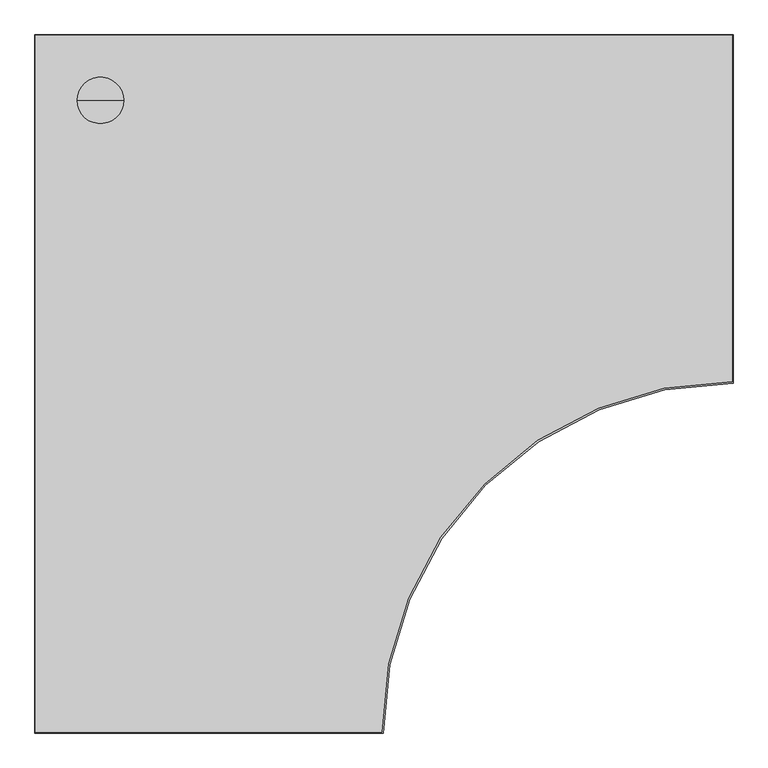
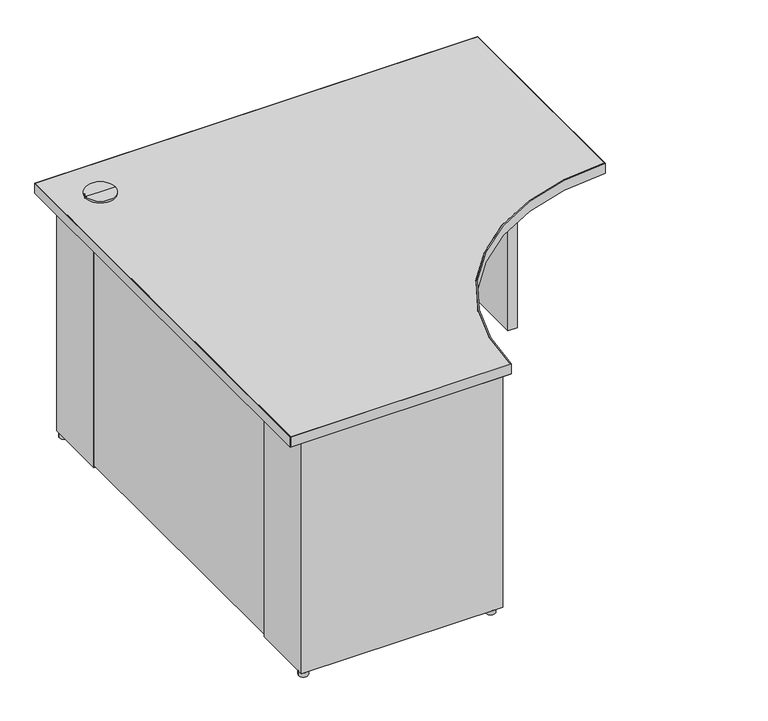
"""IFC4 building model written with IfcOpenShell, lengths in millimetres: furniture geometry, Steelcase - Kick Freestanding - Desk - Curve Corner - Full Height Modesty Panel : 24D x 48W - Left Full End Panel/Right Clear Access Support - LPL."""

import ifcopenshell
import ifcopenshell.guid

model = None  # the IFC model being written
_history = None  # IfcOwnerHistory: only IFC2X3 demands one
_inside = {}  # id of a spatial element -> (the spatial element, [elements in it])
_under = {}  # id of a project, library or spatial element -> (it, [spatial elements below it])
_declared = {}  # id of a project -> (the project, [libraries it declares])
_typed = {}  # id of a type object -> (the type object, [elements of that type])
_made_of = {}  # id of a material, layer set ... -> (it, [elements and type objects made of it])


def new_model(schema):
    """Start an empty IFC model of exactly this schema.

    Asked for "IFC4X3", IfcOpenShell would pick the latest addendum, in which some entities
    have other attributes; the version numbers below select the first issue.
    IFC2X3 requires an IfcOwnerHistory on every rooted entity: one is made here for all.
    """
    global model, _history
    if schema == "IFC4X3":
        model = ifcopenshell.file(schema_version=(4, 3, 0, 0))
    else:
        model = ifcopenshell.file(schema=schema)
    _inside.clear()
    _under.clear()
    _declared.clear()
    _typed.clear()
    _made_of.clear()
    _history = None
    if model.schema == "IFC2X3":
        org = make("IfcOrganization", Name="unknown")
        user = make(
            "IfcPersonAndOrganization",
            ThePerson=make("IfcPerson", FamilyName="unknown"),
            TheOrganization=org,
        )
        app = make(
            "IfcApplication",
            ApplicationDeveloper=org,
            Version="unknown",
            ApplicationFullName="unknown",
            ApplicationIdentifier="unknown",
        )
        _history = make(
            "IfcOwnerHistory",
            OwningUser=user,
            OwningApplication=app,
            ChangeAction="ADDED",
            CreationDate=0,
        )
    return model


def make(cls, **values):
    """One entity of the class cls with the attributes given. An attribute that is None is left unset."""
    return model.create_entity(
        cls, **{name: value for name, value in values.items() if value is not None}
    )


def rooted(cls, **values):
    """An entity with a GlobalId (a new one), such as an element, a storey or a relation."""
    return make(cls, GlobalId=ifcopenshell.guid.new(), OwnerHistory=_history, **values)


def si_unit(unit_type, name, prefix=None):
    """IfcSIUnit, for example si_unit("LENGTHUNIT", "METRE", prefix="MILLI")."""
    return make("IfcSIUnit", UnitType=unit_type, Prefix=prefix, Name=name)


def assignment(units):
    """IfcUnitAssignment: the units of a project."""
    return None if units is None else make("IfcUnitAssignment", Units=units)


def point(xyz):
    """IfcCartesianPoint."""
    return None if xyz is None else make("IfcCartesianPoint", Coordinates=xyz)


def direction(xyz):
    """IfcDirection."""
    return None if xyz is None else make("IfcDirection", DirectionRatios=xyz)


def frame(location, z_axis=None, x_axis=None):
    """IfcAxis2Placement3D, a coordinate frame: its origin and axes. An axis left out is left unset."""
    return make(
        "IfcAxis2Placement3D",
        Location=point(location),
        Axis=direction(z_axis),
        RefDirection=direction(x_axis),
    )


def frame_2d(location, x_axis=None):
    """IfcAxis2Placement2D, a coordinate frame in the plane: its origin and x axis."""
    return make(
        "IfcAxis2Placement2D", Location=point(location), RefDirection=direction(x_axis)
    )


def origin():
    """The frame at (0, 0, 0) with its axes left unset."""
    return frame((0.0, 0.0, 0.0))


def origin_with_axes():
    """The frame at (0, 0, 0) with the z axis (0, 0, 1) and the x axis (1, 0, 0) written out."""
    return frame((0.0, 0.0, 0.0), z_axis=(0.0, 0.0, 1.0), x_axis=(1.0, 0.0, 0.0))


def place(relative_to, where):
    """IfcLocalPlacement: puts the frame where relative to a parent placement (None: the world)."""
    return make(
        "IfcLocalPlacement", PlacementRelTo=relative_to, RelativePlacement=where
    )


def context(
    kind, dimensions, precision=None, world=None, true_north=None, identifier=None
):
    """IfcGeometricRepresentationContext, for example the 3D "Model" context."""
    return make(
        "IfcGeometricRepresentationContext",
        ContextIdentifier=identifier,
        ContextType=kind,
        CoordinateSpaceDimension=dimensions,
        Precision=precision,
        WorldCoordinateSystem=world,
        TrueNorth=true_north,
    )


def project(units=None, contexts=None):
    """IfcProject with its units and contexts."""
    return rooted(
        "IfcProject",
        Name="project",
        RepresentationContexts=contexts,
        UnitsInContext=assignment(units),
    )


def spatial(cls, under=None, at=None, **own):
    """A site, building, storey or space (cls), placed at a placement, below another one or the project."""
    s = rooted(cls, ObjectPlacement=at, **own)
    if under is not None:
        _under.setdefault(under.id(), (under, []))[1].append(s)
    return s


def polyline(points):
    """IfcPolyline through the points."""
    return make("IfcPolyline", Points=[point(p) for p in points])


def circle_curve(where, radius):
    """IfcCircle in the frame where."""
    return make("IfcCircle", Position=where, Radius=radius)


def trimmed(basis, trim1, trim2, sense, master):
    """IfcTrimmedCurve: the piece of a basis curve between two trims."""
    return make(
        "IfcTrimmedCurve",
        BasisCurve=basis,
        Trim1=trim1,
        Trim2=trim2,
        SenseAgreement=sense,
        MasterRepresentation=master,
    )


def segment(curve, same_sense, transition):
    """IfcCompositeCurveSegment."""
    return make(
        "IfcCompositeCurveSegment",
        Transition=transition,
        SameSense=same_sense,
        ParentCurve=curve,
    )


def composite_curve(segments, self_intersect=None):
    """IfcCompositeCurve: segments joined end to end."""
    return make("IfcCompositeCurve", Segments=segments, SelfIntersect=self_intersect)


def outline(outer, holes=None, kind="AREA"):
    """IfcArbitraryClosedProfileDef: a profile drawn as a closed curve; with holes, ...WithVoids."""
    if holes is None:
        return make("IfcArbitraryClosedProfileDef", ProfileType=kind, OuterCurve=outer)
    return make(
        "IfcArbitraryProfileDefWithVoids",
        ProfileType=kind,
        OuterCurve=outer,
        InnerCurves=holes,
    )


def extrude(swept, where, along, depth):
    """IfcExtrudedAreaSolid: the profile swept, set in the frame where, extruded along a direction by depth."""
    return make(
        "IfcExtrudedAreaSolid",
        SweptArea=swept,
        Position=where,
        ExtrudedDirection=direction(along),
        Depth=depth,
    )


def shape(context_of_items, identifier, shape_type, items):
    """IfcShapeRepresentation: the items that make up one representation, for example the "Body"."""
    return make(
        "IfcShapeRepresentation",
        ContextOfItems=context_of_items,
        RepresentationIdentifier=identifier,
        RepresentationType=shape_type,
        Items=items,
    )


def source(mapping_origin, context_of_items, identifier, shape_type, items):
    """IfcRepresentationMap: a shape defined once, which mapped items show again and again."""
    return make(
        "IfcRepresentationMap",
        MappingOrigin=mapping_origin,
        MappedRepresentation=shape(context_of_items, identifier, shape_type, items),
    )


def transform(
    local_origin,
    x_axis=None,
    y_axis=None,
    z_axis=None,
    scale=None,
    scale2=None,
    scale3=None,
    uniform=True,
):
    """IfcCartesianTransformationOperator3D, or its non-uniform kind. x_axis, y_axis, z_axis: its Axis1, 2, 3."""
    if uniform:
        return make(
            "IfcCartesianTransformationOperator3D",
            Axis1=direction(x_axis),
            Axis2=direction(y_axis),
            LocalOrigin=point(local_origin),
            Scale=scale,
            Axis3=direction(z_axis),
        )
    return make(
        "IfcCartesianTransformationOperator3DnonUniform",
        Axis1=direction(x_axis),
        Axis2=direction(y_axis),
        LocalOrigin=point(local_origin),
        Scale=scale,
        Axis3=direction(z_axis),
        Scale2=scale2,
        Scale3=scale3,
    )


def mapped(mapping_source, mapping_target):
    """IfcMappedItem: shows the shape of a source again, moved by a transform."""
    return make(
        "IfcMappedItem", MappingSource=mapping_source, MappingTarget=mapping_target
    )


def made_of(thing, what):
    """Note that an element or type object is made of a material, layer set ...; save() writes the relation."""
    if what is not None:
        _made_of.setdefault(what.id(), (what, []))[1].append(thing)
    return thing


def element(
    cls,
    number,
    at=None,
    inside=None,
    cuts=None,
    type_object=None,
    material=None,
    context=None,
    identifier="Body",
    shape_type=None,
    held_by="IfcProductDefinitionShape",
    body=None,
    shapes=None,
    **own,
):
    """One element of the class cls, such as IfcWall. Its Tag is "e" and its number.

    at: its placement. inside: the storey or other place that contains it. cuts: it is an
    opening in that element (IfcRelVoidsElement). A single representation is given by context,
    identifier, shape_type and body (its items); several are given by shapes. held_by: the class
    of the entity that holds the representations. save() writes the other relations.
    """
    e = rooted(cls, Tag="e%d" % number, ObjectPlacement=at, **own)
    if body is not None:
        shapes = [shape(context, identifier, shape_type, body)]
    if shapes is not None:
        e.Representation = make(held_by, Representations=shapes)
    if inside is not None:
        _inside.setdefault(inside.id(), (inside, []))[1].append(e)
    if cuts is not None:
        rooted(
            "IfcRelVoidsElement", RelatingBuildingElement=cuts, RelatedOpeningElement=e
        )
    if type_object is not None:
        _typed.setdefault(type_object.id(), (type_object, []))[1].append(e)
    return made_of(e, material)


def aggregate(whole, parts):
    """IfcRelAggregates: a whole, such as a stair, and the parts it consists of."""
    return rooted("IfcRelAggregates", RelatingObject=whole, RelatedObjects=parts)


def save(model, path):
    """Write the relations noted so far, then the file.

    IfcRelAggregates (storeys below a building ...), IfcRelContainedInSpatialStructure (elements
    in a storey), IfcRelDefinesByType, IfcRelAssociatesMaterial and IfcRelDeclares: one each for
    every whole, place, type object, material and project.
    """
    for whole, parts in _under.values():
        aggregate(whole, parts)
    for where, things in _inside.values():
        rooted(
            "IfcRelContainedInSpatialStructure",
            RelatedElements=things,
            RelatingStructure=where,
        )
    for kind, things in _typed.values():
        rooted("IfcRelDefinesByType", RelatedObjects=things, RelatingType=kind)
    for what, things in _made_of.values():
        rooted("IfcRelAssociatesMaterial", RelatedObjects=things, RelatingMaterial=what)
    for by, libraries in _declared.values():
        rooted("IfcRelDeclares", RelatingContext=by, RelatedDefinitions=libraries)
    model.write(path)


def plane_surface(at):
    """IfcPlane: the flat surface through the origin of the frame at, square to its z axis."""
    return make("IfcPlane", Position=at)


def cylinder_surface(at, radius):
    """IfcCylindricalSurface: all points at the distance radius from the z axis of the frame at."""
    return make("IfcCylindricalSurface", Position=at, Radius=radius)


def advanced_brep(points, edges, surfaces, faces):
    """IfcAdvancedBrep: a solid bounded by faces that lie on surfaces and meet in shared edges.

    An edge is (start, end): straight between two places in points (the first is 0);
    or (start, end, curve); or (start, end, curve, False) where it runs against its curve.
    A face is (place in surfaces, loops), or (place, loops, False) where it looks against
    its surface's normal. A loop lists edges by number (the first is 1), with a minus sign
    where the edge is run from its end to its start. The first loop is the outer one.
    """
    corners = [point(p) for p in points]
    vertices = [make("IfcVertexPoint", VertexGeometry=c) for c in corners]
    made = []
    for start, end, *more in edges:
        made.append(
            make(
                "IfcEdgeCurve",
                EdgeStart=vertices[start],
                EdgeEnd=vertices[end],
                EdgeGeometry=more[0] if more else make("IfcPolyline", Points=[corners[start], corners[end]]),
                SameSense=more[1] if len(more) > 1 else True,
            )
        )
    hull = []
    for where, loops, *sense in faces:
        bounds = []
        for j, loop in enumerate(loops):
            ring = [make("IfcOrientedEdge", EdgeElement=made[abs(k) - 1], Orientation=k > 0) for k in loop]
            bounds.append(
                make(
                    "IfcFaceOuterBound" if j == 0 else "IfcFaceBound",
                    Bound=make("IfcEdgeLoop", EdgeList=ring),
                    Orientation=True,
                )
            )
        hull.append(make("IfcAdvancedFace", Bounds=bounds, FaceSurface=surfaces[where], SameSense=sense[0] if sense else True))
    return make("IfcAdvancedBrep", Outer=make("IfcClosedShell", CfsFaces=hull))


def furniture_05401ec1(model_context):
    return source(origin(), model_context, "Body", "SolidModel", [
        extrude(outline(composite_curve([segment(trimmed(circle_curve(frame_2d((566.7971133, -1192.2759893)), 12.7), [point((554.0971133, -1192.2759893))], [point((579.4971133, -1192.2759893))], False, "CARTESIAN"), True, "CONTINUOUS"), segment(trimmed(circle_curve(frame_2d((566.7971133, -1192.2759893)), 12.7), [point((579.4971133, -1192.2759893))], [point((554.0971133, -1192.2759893))], False, "CARTESIAN"), True, "CONTINUOUS")], self_intersect=False)), origin_with_axes(), (0.0, 0.0, 1.0), 12.446),
        extrude(outline(polyline([(1026.4393822, -63.5), (1026.4393822, -38.1), (1204.2393579, -38.1), (1204.2393579, -215.8999939), (1178.3313463, -215.8999939), (1178.3313463, -63.5), (1026.4393822, -63.5)])), frame((0.0, 0.0, 12.446), z_axis=(0.0, 0.0, 1.0), x_axis=(1.0, 0.0, 0.0)), (0.0, 0.0, 1.0), 682.498),
        extrude(outline(polyline([(215.8999939, -63.5), (63.5, -63.5), (63.5, -215.8999939), (38.1, -215.8999939), (38.1, -38.1), (215.8999939, -38.1), (215.8999939, -63.5)])), frame((0.0, 0.0, 12.446), z_axis=(0.0, 0.0, 1.0), x_axis=(1.0, 0.0, 0.0)), (0.0, 0.0, 1.0), 682.498),
        extrude(outline(polyline([(63.5, -1027.4300194), (63.5, -1179.8300194), (161.3662, -1179.8300194), (161.3662, -1199.4895822), (261.0866, -1199.4895822), (261.0866, -1179.8300194), (369.824, -1179.8300194), (369.824, -1199.4895822), (469.5444, -1199.4895822), (469.5444, -1179.8300194), (592.582, -1179.8300194), (592.582, -1205.2299952), (38.1, -1205.2299952), (38.1, -1027.4300194), (63.5, -1027.4300194)])), frame((0.0, 0.0, 12.446), z_axis=(0.0, 0.0, 1.0), x_axis=(1.0, 0.0, 0.0)), (0.0, 0.0, 1.0), 682.498),
        advanced_brep(
        [(114.3, -114.3, 728.98), (154.94, -114.3, 728.98), (73.66, -114.3, 728.98), (76.1699693, -114.3, 694.944), (152.4300307, -114.3, 694.944), (114.3, -114.3, 694.944), (76.1699693, -114.3, 723.9), (152.4300307, -114.3, 723.9), (73.66, -114.3, 723.9), (154.94, -114.3, 723.9)],
        [
            (0, 1),
            (1, 2, circle_curve(frame((114.3, -114.3, 728.98), z_axis=(0.0, 0.0, 1.0), x_axis=(1.0, 0.0, 0.0)), 40.64)),
            (2, 0),
            (2, 1, circle_curve(frame((114.3, -114.3, 728.98), z_axis=(0.0, 0.0, 1.0), x_axis=(1.0, 0.0, 0.0)), 40.64)),
            (3, 4, circle_curve(frame((114.3, -114.3, 694.944), z_axis=(0.0, 0.0, -1.0), x_axis=(1.0, 0.0, 0.0)), 38.1300307)),
            (4, 5),
            (5, 3),
            (4, 3, circle_curve(frame((114.3, -114.3, 694.944), z_axis=(0.0, 0.0, -1.0), x_axis=(1.0, 0.0, 0.0)), 38.1300307)),
            (6, 7, circle_curve(frame((114.3, -114.3, 723.9), z_axis=(0.0, 0.0, -1.0), x_axis=(1.0, 0.0, 0.0)), 38.1300307)),
            (7, 4),
            (3, 6),
            (7, 6, circle_curve(frame((114.3, -114.3, 723.9), z_axis=(0.0, 0.0, -1.0), x_axis=(1.0, 0.0, 0.0)), 38.1300307)),
            (8, 9, circle_curve(frame((114.3, -114.3, 723.9), z_axis=(0.0, 0.0, -1.0), x_axis=(1.0, 0.0, 0.0)), 40.64)),
            (9, 7),
            (6, 8),
            (9, 8, circle_curve(frame((114.3, -114.3, 723.9), z_axis=(0.0, 0.0, -1.0), x_axis=(1.0, 0.0, 0.0)), 40.64)),
            (1, 9),
            (8, 2),
        ],
        [
            plane_surface(frame((114.3, -114.3, 728.98), z_axis=(0.0, 0.0, 1.0), x_axis=(1.0, 0.0, 0.0))),
            plane_surface(frame((114.3, -114.3, 694.944), z_axis=(0.0, 0.0, -1.0), x_axis=(1.0, 0.0, 0.0))),
            cylinder_surface(frame((114.3, -114.3, 728.98), z_axis=(0.0, 0.0, 1.0), x_axis=(1.0, 0.0, 0.0)), 38.1300307),
            plane_surface(frame((114.3, -114.3, 723.9), z_axis=(0.0, 0.0, -1.0), x_axis=(1.0, 0.0, 0.0))),
            cylinder_surface(frame((114.3, -114.3, 728.98), z_axis=(0.0, 0.0, 1.0), x_axis=(1.0, 0.0, 0.0)), 40.64),
        ],
        [
            (0, [[1, 2, 3]]),
            (0, [[-3, 4, -1]]),
            (1, [[5, 6, 7]]),
            (1, [[8, -7, -6]]),
            (2, [[9, 10, -5, 11]]),
            (2, [[12, -11, -8, -10]]),
            (3, [[13, 14, -9, 15]]),
            (3, [[16, -15, -12, -14]]),
            (4, [[-2, 17, -13, 18]]),
            (4, [[-4, -18, -16, -17]]),
        ],
    ),
        extrude(outline(composite_curve([segment(trimmed(circle_curve(frame_2d((50.8, -50.8)), 12.7), [point((38.1, -50.8))], [point((63.5, -50.8))], False, "CARTESIAN"), True, "CONTINUOUS"), segment(trimmed(circle_curve(frame_2d((50.8, -50.8)), 12.7), [point((63.5, -50.8))], [point((38.1, -50.8))], False, "CARTESIAN"), True, "CONTINUOUS")], self_intersect=False)), origin_with_axes(), (0.0, 0.0, 1.0), 12.446),
        extrude(outline(composite_curve([segment(trimmed(circle_curve(frame_2d((50.8, -1192.5300073)), 12.7484998), [point((38.0515002, -1192.5300073))], [point((63.5484998, -1192.5300073))], False, "CARTESIAN"), True, "CONTINUOUS"), segment(trimmed(circle_curve(frame_2d((50.8, -1192.5300073)), 12.7484998), [point((63.5484998, -1192.5300073))], [point((38.0515002, -1192.5300073))], False, "CARTESIAN"), True, "CONTINUOUS")], self_intersect=False)), origin_with_axes(), (0.0, 0.0, 1.0), 12.446),
        extrude(outline(composite_curve([segment(trimmed(circle_curve(frame_2d((1191.2853521, -50.8)), 12.7), [point((1178.5853521, -50.8))], [point((1203.9853521, -50.8))], False, "CARTESIAN"), True, "CONTINUOUS"), segment(trimmed(circle_curve(frame_2d((1191.2853521, -50.8)), 12.7), [point((1203.9853521, -50.8))], [point((1178.5853521, -50.8))], False, "CARTESIAN"), True, "CONTINUOUS")], self_intersect=False)), origin_with_axes(), (0.0, 0.0, 1.0), 12.446),
        extrude(outline(polyline([(63.5, -215.8999939), (63.5, -1027.4300194), (38.1, -1027.4300194), (38.1, -215.8999939), (63.5, -215.8999939)])), frame((0.0, 0.0, 20.828), z_axis=(0.0, 0.0, 1.0), x_axis=(1.0, 0.0, 0.0)), (0.0, 0.0, 1.0), 674.116),
        extrude(outline(polyline([(1026.4393822, -38.1), (1026.4393822, -63.5), (215.8999939, -63.5), (215.8999939, -38.1), (1026.4393822, -38.1)])), frame((0.0, 0.0, 20.828), z_axis=(0.0, 0.0, 1.0), x_axis=(1.0, 0.0, 0.0)), (0.0, 0.0, 1.0), 674.116),
        extrude(outline(composite_curve([segment(polyline([(0.9906, -1218.2093628), (0.9906, -0.9906), (1218.2093628, -0.9906), (1218.2093628, -605.3354109)]), True, "CONTINUOUS"), segment(trimmed(circle_curve(frame_2d((1216.9393458, -1216.9393458)), 611.6052536), [point((1218.2093628, -605.3354109))], [point((605.3354109, -1218.2093628))], True, "CARTESIAN"), True, "CONTINUOUS"), segment(polyline([(605.3354109, -1218.2093628), (0.9906, -1218.2093628)]), True, "CONTINUOUS")], self_intersect=False)), frame((0.0, 0.0, 694.944), z_axis=(0.0, 0.0, 1.0), x_axis=(1.0, 0.0, 0.0)), (0.0, 0.0, 1.0), 28.956),
        extrude(outline(composite_curve([segment(polyline([(1219.2, 0.0), (1219.2, -608.332629)]), True, "CONTINUOUS"), segment(trimmed(circle_curve(frame_2d((1217.929983, -1217.929983)), 609.598677), [point((1219.2, -608.332629))], [point((608.332629, -1219.2))], True, "CARTESIAN"), True, "CONTINUOUS"), segment(polyline([(608.332629, -1219.2), (0.0, -1219.2), (0.0, 0.0), (1219.2, 0.0)]), True, "CONTINUOUS")], self_intersect=False), holes=[composite_curve([segment(polyline([(1218.2093628, -0.9906), (0.9906, -0.9906), (0.9906, -1218.2093628), (605.3354109, -1218.2093628)]), True, "CONTINUOUS"), segment(trimmed(circle_curve(frame_2d((1216.9393458, -1216.9393458)), 611.6052536), [point((605.3354109, -1218.2093628))], [point((1218.2093628, -605.3354109))], False, "CARTESIAN"), True, "CONTINUOUS"), segment(polyline([(1218.2093628, -605.3354109), (1218.2093628, -0.9906)]), True, "CONTINUOUS")], self_intersect=False)]), frame((0.0, 0.0, 694.944), z_axis=(0.0, 0.0, 1.0), x_axis=(1.0, 0.0, 0.0)), (0.0, 0.0, 1.0), 28.956),
    ])


if __name__ == "__main__":
    model = new_model("IFC4")
    model_context = context("Model", 3, world=origin())
    ifc_project = project(units=[si_unit("LENGTHUNIT", "METRE", prefix="MILLI")], contexts=[model_context])
    site = spatial("IfcSite", under=ifc_project)
    building = spatial("IfcBuilding", under=site)
    placement = place(None, origin())
    furniture_shape = furniture_05401ec1(model_context)
    element("IfcFurniture", 1, ObjectType="Steelcase - Kick Freestanding - Desk - Curve Corner - Full Height Modesty Panel : 24D x 48W - Left Full End Panel/Right Clear Access Support - LPL", at=placement, inside=building, context=model_context, shape_type="MappedRepresentation", body=[
        mapped(furniture_shape, transform((0.0, 0.0, 0.0), x_axis=(1.0, 0.0, 0.0), y_axis=(0.0, 1.0, 0.0), z_axis=(0.0, 0.0, 1.0))),
    ])
    save(model, "model.ifc")
